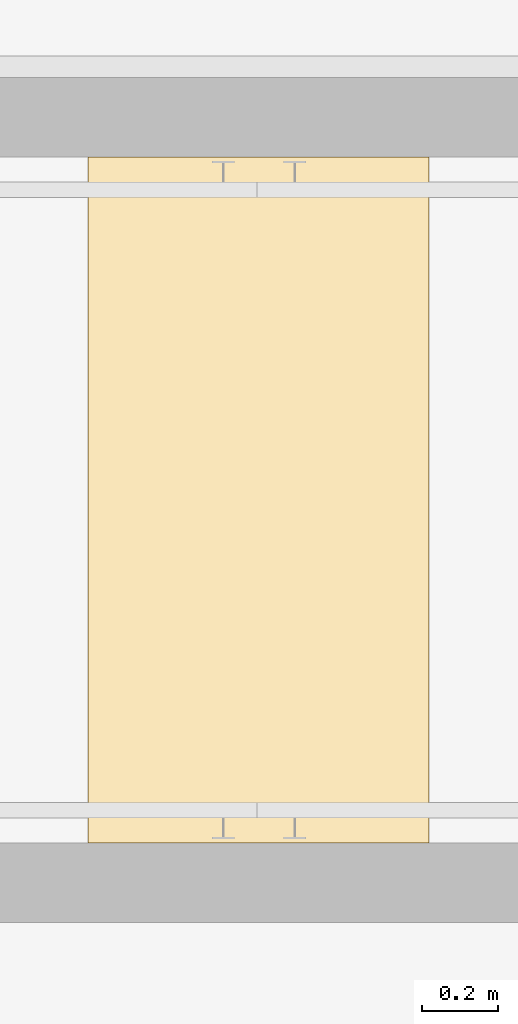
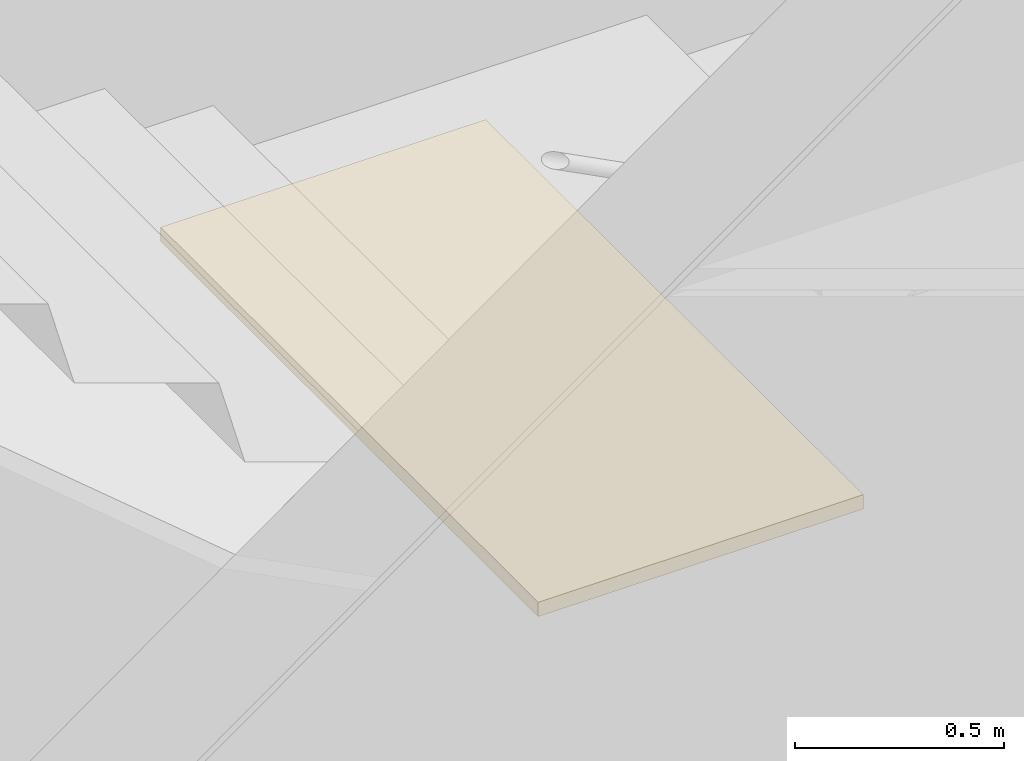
# One storey, part 61 of 79: 1 covering.
"""IFC2X3 building model written with IfcOpenShell, lengths in millimetres."""

from ifc_helpers import new_model, entity, si_unit, converted_unit, derived_unit, money_unit, direction, frame, origin_with_axes, place, context, subcontext, project, spatial, faceted_brep, material, type_object, element, save


model = new_model("IFC2X3")

# Units and contexts
model_context = context("Model", 3, precision=0.01, world=origin_with_axes(), true_north=direction((0.0, 1.0)))
body_context = subcontext(model_context, "Body", "Model", "MODEL_VIEW")
ifc_project = project(units=[si_unit("LENGTHUNIT", "METRE", prefix="MILLI"), si_unit("AREAUNIT", "SQUARE_METRE"), si_unit("VOLUMEUNIT", "CUBIC_METRE"), converted_unit("PLANEANGLEUNIT", "DEGREE", entity("IfcPlaneAngleMeasure", 0.0174532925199), si_unit("PLANEANGLEUNIT", "RADIAN"), dimensions=[0, 0, 0, 0, 0, 0, 0]), si_unit("SOLIDANGLEUNIT", "STERADIAN"), money_unit("EUR"), converted_unit("TIMEUNIT", "Year", entity("IfcTimeMeasure", 31556926.0), si_unit("TIMEUNIT", "SECOND"), dimensions=[0, 0, 1, 0, 0, 0, 0]), si_unit("MASSUNIT", "GRAM", prefix="KILO"), si_unit("THERMODYNAMICTEMPERATUREUNIT", "DEGREE_CELSIUS"), si_unit("LUMINOUSINTENSITYUNIT", "LUMEN"), si_unit("ENERGYUNIT", "JOULE", prefix="MEGA"), derived_unit("THERMALCONDUCTANCEUNIT", [(si_unit("POWERUNIT", "WATT"), 1), (si_unit("LENGTHUNIT", "METRE"), -1), (si_unit("THERMODYNAMICTEMPERATUREUNIT", "KELVIN"), -1)]), derived_unit("SPECIFICHEATCAPACITYUNIT", [(si_unit("ENERGYUNIT", "JOULE"), 1), (si_unit("MASSUNIT", "GRAM", prefix="KILO"), -1), (si_unit("THERMODYNAMICTEMPERATUREUNIT", "KELVIN"), -1)]), derived_unit("MASSDENSITYUNIT", [(si_unit("MASSUNIT", "GRAM", prefix="KILO"), 1), (si_unit("VOLUMEUNIT", "CUBIC_METRE"), -1)])], contexts=[model_context])

# Site, building, storey
site_placement = place(None, origin_with_axes())
site = spatial("IfcSite", under=ifc_project, at=site_placement, Name="L.Koidula tn 11b", CompositionType="ELEMENT")
building_placement = place(site_placement, origin_with_axes())
building = spatial("IfcBuilding", under=site, at=building_placement, Name="Rakvere Riigigümnaasium", CompositionType="ELEMENT")
storey_placement = place(building_placement, frame((0.0, 0.0, 3720.0), z_axis=(0.0, 0.0, 1.0), x_axis=(1.0, 0.0, 0.0)))
storey = spatial("IfcBuildingStorey", under=building, at=storey_placement, Name="2.korrus +3,72", CompositionType="ELEMENT", Elevation=3720.0)

# Covering
ifc_material = material(Name="Krohv akustiline")
covering_type = type_object("IfcCoveringType", Name="Krohv akustiline 42", PredefinedType="CEILING")
covering_placement = place(storey_placement, frame((80944.6117592, 17110.371032, 1710.0), z_axis=(0.0, 0.0, 1.0), x_axis=(1.0, 0.0, 0.0)))
element("IfcCovering", 1, at=covering_placement, inside=storey, type_object=covering_type, material=ifc_material, Name="L-06", PredefinedType="CEILING", context=body_context, shape_type="Brep", body=[
    faceted_brep([(0.0, 0.0, 0.0), (0.0, 0.0, -42.0), (0.0, -1810.01984176, -42.0), (0.0, -1810.01984176, 0.0), (900.0, 0.0852769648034, 0.0), (900.0, 0.0852769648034, -42.0), (900.0, -1810.02007418, -42.0), (900.0, -1810.02007418, 0.0)], [[[0, 1, 2, 3]], [[4, 5, 1, 0]], [[2, 1, 5, 6]], [[3, 2, 6, 7]], [[4, 0, 3, 7]], [[7, 6, 5, 4]]]),
])

save(model, "model.ifc")
